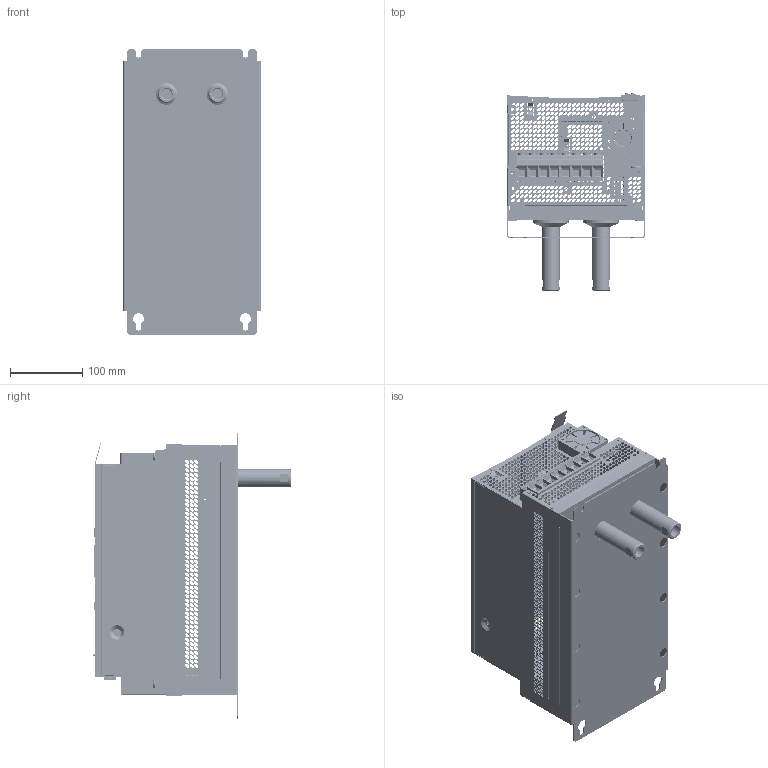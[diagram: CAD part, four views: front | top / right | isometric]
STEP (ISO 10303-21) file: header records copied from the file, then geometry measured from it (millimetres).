
FILE_DESCRIPTION(/* description */ (''),/* implementation_level */ '2;1');
FILE_NAME(/* name */ 'CB06133-001',/* time_stamp */ '2010-05-12T11:54:49+02:00',/* author */ (''),/* organization */ (''),/* preprocessor_version */ 'ST-DEVELOPER v9',/* originating_system */ 'UGS - NX 4.0',/* authorisation */ '');
FILE_SCHEMA (('AUTOMOTIVE_DESIGN { 1 0 10303 214 1 1 1 1 }'));
Products named in the file (1): sdumD643as3a
Bounding box: 190 x 274.1 x 394.25 mm (x, y, z)
Volume: 1969946.2 mm3; surface area: 1022251.6 mm2
Topology: 34 solids, 34 shells, 8635 faces, 23309 edges, 15132 vertices
Faces by surface type: plane 4427, bspline 2323, cylinder 1588, cone 212, torus 85
Entity records: 345836 total; most frequent: CARTESIAN_POINT 85454, ORIENTED_EDGE 46518, DIRECTION 33894, EDGE_CURVE 23259, VERTEX_POINT 15132, LINE 14502, VECTOR 14502, EDGE_LOOP 11579
